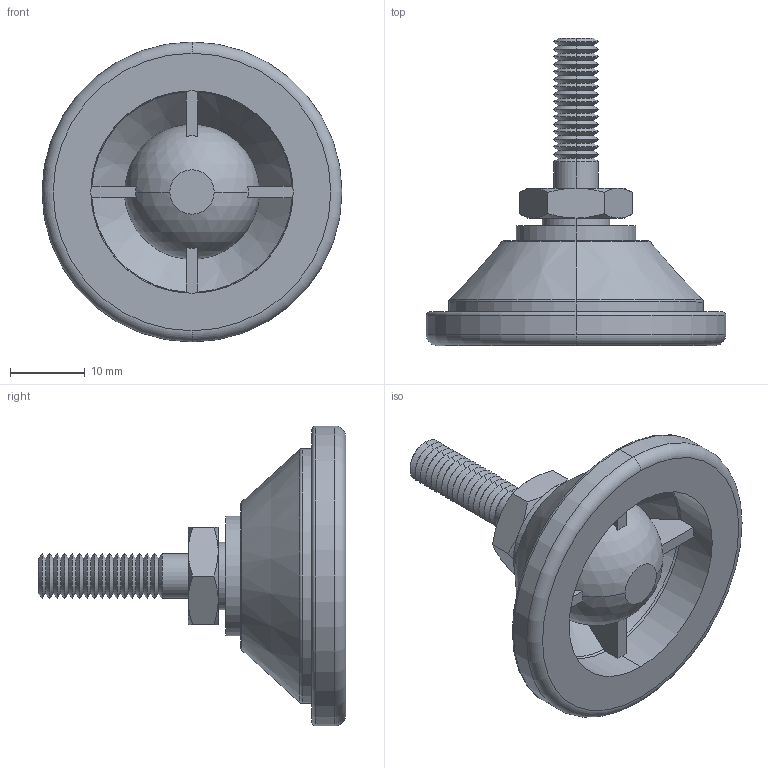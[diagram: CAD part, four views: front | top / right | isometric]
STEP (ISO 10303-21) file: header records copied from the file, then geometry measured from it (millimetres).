
FILE_DESCRIPTION (( 'STEP AP203' ), '1' );
FILE_NAME ('34741.W0060.step', '2016-09-22T07:36:56', ( 'User' ), ( '' ), 'SwSTEP 2.0', 'SolidWorks 2009', '' );
FILE_SCHEMA (( 'CONFIG_CONTROL_DESIGN' ));
Length unit declared in the file: millimetre
Products named in the file (3): 34741.W0060; Part1_34741.W0060; Part2_34741.W0060
Assembly tree (2 placements, depth 2):
  34741.W0060
    Part1_34741.W0060
    Part2_34741.W0060
Bounding box: 40 x 41 x 40 mm (x, y, z)
Volume: 9736.8 mm3; surface area: 6675.1 mm2
Topology: 2 solids, 2 shells, 144 faces, 324 edges, 186 vertices
Faces by surface type: cone 86, plane 26, cylinder 14, torus 12, sphere 6
Entity records: 4337 total; most frequent: CARTESIAN_POINT 845, DIRECTION 742, ORIENTED_EDGE 630, AXIS2_PLACEMENT_3D 318, EDGE_CURVE 315, VERTEX_POINT 181, CIRCLE 169, EDGE_LOOP 150
